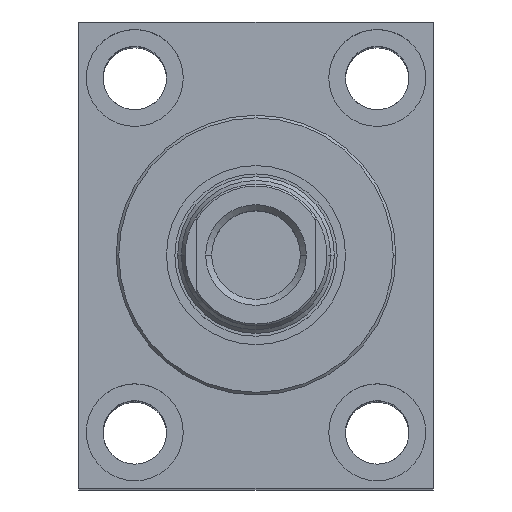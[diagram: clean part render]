
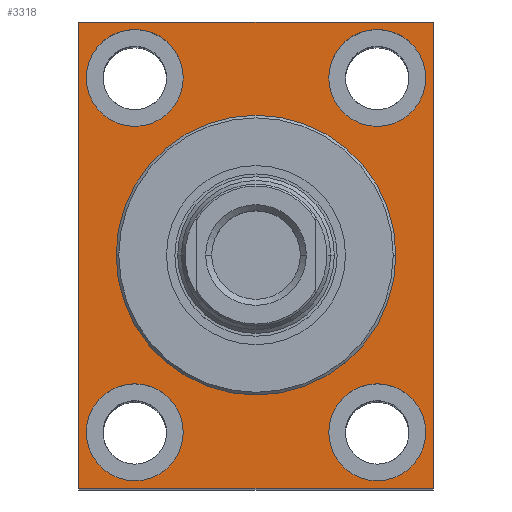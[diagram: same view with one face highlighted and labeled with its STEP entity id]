
A CAD part, top view. The second image highlights one B-rep face of the part: STEP entity #3318.
In plain terms, the highlighted planar face has unit normal (0, 0, 1).
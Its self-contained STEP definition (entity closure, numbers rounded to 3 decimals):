
#13 = CARTESIAN_POINT ( 'NONE',  ( -32.5, 47.5, -14. ) ) ;
#71 = VERTEX_POINT ( 'NONE', #3009 ) ;
#130 = VERTEX_POINT ( 'NONE', #8001 ) ;
#139 = EDGE_CURVE ( 'NONE', #71, #6785, #6613, .T. ) ;
#250 = EDGE_LOOP ( 'NONE', ( #7185, #1024 ) ) ;
#334 = CARTESIAN_POINT ( 'NONE',  ( -45.5, 47.5, -14. ) ) ;
#358 = CARTESIAN_POINT ( 'NONE',  ( 32.5, -47.5, -14. ) ) ;
#385 = CARTESIAN_POINT ( 'NONE',  ( 45.5, 47.5, -14. ) ) ;
#531 = FACE_OUTER_BOUND ( 'NONE', #6491, .T. ) ;
#555 = DIRECTION ( 'NONE',  ( 0., -1., 0. ) ) ;
#579 = DIRECTION ( 'NONE',  ( 0., 0., -1. ) ) ;
#604 = VERTEX_POINT ( 'NONE', #7264 ) ;
#636 = CARTESIAN_POINT ( 'NONE',  ( 0., 37.501, -14. ) ) ;
#644 = CARTESIAN_POINT ( 'NONE',  ( -47.5, -62.5, -14. ) ) ;
#667 = ORIENTED_EDGE ( 'NONE', *, *, #4178, .T. ) ;
#738 = VERTEX_POINT ( 'NONE', #334 ) ;
#773 = CIRCLE ( 'NONE', #7615, 37.501 ) ;
#813 = DIRECTION ( 'NONE',  ( 0., 0., -1. ) ) ;
#873 = EDGE_LOOP ( 'NONE', ( #5511, #7522 ) ) ;
#1019 = DIRECTION ( 'NONE',  ( 0., 0., 1. ) ) ;
#1024 = ORIENTED_EDGE ( 'NONE', *, *, #6876, .T. ) ;
#1105 = EDGE_CURVE ( 'NONE', #130, #4103, #1319, .T. ) ;
#1123 = CARTESIAN_POINT ( 'NONE',  ( -47.5, 62.5, -14. ) ) ;
#1130 = DIRECTION ( 'NONE',  ( 0., 0., -1. ) ) ;
#1153 = VECTOR ( 'NONE', #5759, 1000. ) ;
#1194 = EDGE_CURVE ( 'NONE', #4536, #4074, #7053, .T. ) ;
#1231 = CARTESIAN_POINT ( 'NONE',  ( 0., 0., -14. ) ) ;
#1236 = CARTESIAN_POINT ( 'NONE',  ( -47.5, -62.5, -14. ) ) ;
#1319 = LINE ( 'NONE', #2573, #6124 ) ;
#1323 = CARTESIAN_POINT ( 'NONE',  ( 32.5, 47.5, -14. ) ) ;
#1352 = DIRECTION ( 'NONE',  ( -1., 0., 0. ) ) ;
#1382 = EDGE_CURVE ( 'NONE', #7646, #6312, #7972, .T. ) ;
#1402 = VERTEX_POINT ( 'NONE', #2418 ) ;
#1547 = ORIENTED_EDGE ( 'NONE', *, *, #2596, .T. ) ;
#1548 = EDGE_CURVE ( 'NONE', #4074, #4536, #3214, .T. ) ;
#1555 = CARTESIAN_POINT ( 'NONE',  ( 0., -37.501, -14. ) ) ;
#1815 = DIRECTION ( 'NONE',  ( 0., 1., 0. ) ) ;
#1820 = CARTESIAN_POINT ( 'NONE',  ( -32.5, -47.5, -14. ) ) ;
#1836 = ORIENTED_EDGE ( 'NONE', *, *, #1548, .T. ) ;
#1877 = AXIS2_PLACEMENT_3D ( 'NONE', #358, #1130, #4218 ) ;
#1939 = CARTESIAN_POINT ( 'NONE',  ( -45.5, -47.5, -14. ) ) ;
#2064 = CIRCLE ( 'NONE', #6390, 13. ) ;
#2082 = AXIS2_PLACEMENT_3D ( 'NONE', #5171, #6492, #2822 ) ;
#2330 = FACE_BOUND ( 'NONE', #250, .T. ) ;
#2378 = DIRECTION ( 'NONE',  ( 0., 0., -1. ) ) ;
#2382 = DIRECTION ( 'NONE',  ( -1., 0., 0. ) ) ;
#2408 = DIRECTION ( 'NONE',  ( 1., 0., 0. ) ) ;
#2418 = CARTESIAN_POINT ( 'NONE',  ( 19.5, -47.5, -14. ) ) ;
#2573 = CARTESIAN_POINT ( 'NONE',  ( 47.5, 62.5, -14. ) ) ;
#2596 = EDGE_CURVE ( 'NONE', #8097, #738, #2064, .T. ) ;
#2615 = EDGE_CURVE ( 'NONE', #6785, #71, #3775, .T. ) ;
#2820 = AXIS2_PLACEMENT_3D ( 'NONE', #1323, #579, #3163 ) ;
#2822 = DIRECTION ( 'NONE',  ( -1., 0., 0. ) ) ;
#2995 = FACE_BOUND ( 'NONE', #4269, .T. ) ;
#3009 = CARTESIAN_POINT ( 'NONE',  ( -19.5, -47.5, -14. ) ) ;
#3014 = EDGE_CURVE ( 'NONE', #5154, #604, #4407, .T. ) ;
#3123 = ORIENTED_EDGE ( 'NONE', *, *, #3014, .T. ) ;
#3130 = DIRECTION ( 'NONE',  ( 0., 1., 0. ) ) ;
#3161 = DIRECTION ( 'NONE',  ( 0., 1., 0. ) ) ;
#3163 = DIRECTION ( 'NONE',  ( -1., 0., 0. ) ) ;
#3207 = DIRECTION ( 'NONE',  ( 0., 0., -1. ) ) ;
#3210 = DIRECTION ( 'NONE',  ( -1., 0., 0. ) ) ;
#3214 = CIRCLE ( 'NONE', #2820, 13. ) ;
#3283 = VERTEX_POINT ( 'NONE', #8021 ) ;
#3318 = ADVANCED_FACE ( 'NONE', ( #4271, #2995, #7324, #2330, #6778, #531 ), #5546, .T. ) ;
#3394 = CIRCLE ( 'NONE', #7218, 13. ) ;
#3434 = ORIENTED_EDGE ( 'NONE', *, *, #139, .T. ) ;
#3742 = DIRECTION ( 'NONE',  ( 0., 0., -1. ) ) ;
#3753 = CARTESIAN_POINT ( 'NONE',  ( 32.5, -47.5, -14. ) ) ;
#3754 = EDGE_CURVE ( 'NONE', #1402, #3283, #4906, .T. ) ;
#3775 = CIRCLE ( 'NONE', #5083, 13. ) ;
#3833 = ORIENTED_EDGE ( 'NONE', *, *, #7337, .T. ) ;
#4074 = VERTEX_POINT ( 'NONE', #385 ) ;
#4103 = VERTEX_POINT ( 'NONE', #4990 ) ;
#4161 = CARTESIAN_POINT ( 'NONE',  ( 0., 0., -14. ) ) ;
#4178 = EDGE_CURVE ( 'NONE', #604, #130, #4284, .T. ) ;
#4207 = ORIENTED_EDGE ( 'NONE', *, *, #1105, .T. ) ;
#4218 = DIRECTION ( 'NONE',  ( -1., 0., 0. ) ) ;
#4269 = EDGE_LOOP ( 'NONE', ( #3833, #1547 ) ) ;
#4271 = FACE_BOUND ( 'NONE', #873, .T. ) ;
#4284 = LINE ( 'NONE', #8070, #4492 ) ;
#4325 = EDGE_LOOP ( 'NONE', ( #5599, #3434 ) ) ;
#4407 = LINE ( 'NONE', #1236, #1153 ) ;
#4492 = VECTOR ( 'NONE', #3130, 1000. ) ;
#4534 = DIRECTION ( 'NONE',  ( 0., 0., -1. ) ) ;
#4536 = VERTEX_POINT ( 'NONE', #6699 ) ;
#4906 = CIRCLE ( 'NONE', #1877, 13. ) ;
#4944 = DIRECTION ( 'NONE',  ( 0., 0., -1. ) ) ;
#4990 = CARTESIAN_POINT ( 'NONE',  ( -47.5, 62.5, -14. ) ) ;
#4998 = EDGE_LOOP ( 'NONE', ( #5630, #1836 ) ) ;
#5075 = AXIS2_PLACEMENT_3D ( 'NONE', #4161, #2378, #1815 ) ;
#5083 = AXIS2_PLACEMENT_3D ( 'NONE', #5728, #6464, #3210 ) ;
#5154 = VERTEX_POINT ( 'NONE', #644 ) ;
#5162 = AXIS2_PLACEMENT_3D ( 'NONE', #1820, #4944, #2382 ) ;
#5171 = CARTESIAN_POINT ( 'NONE',  ( -32.5, 47.5, -14. ) ) ;
#5208 = CARTESIAN_POINT ( 'NONE',  ( 32.5, 47.5, -14. ) ) ;
#5511 = ORIENTED_EDGE ( 'NONE', *, *, #7191, .T. ) ;
#5536 = ORIENTED_EDGE ( 'NONE', *, *, #8081, .T. ) ;
#5546 = PLANE ( 'NONE',  #7666 ) ;
#5599 = ORIENTED_EDGE ( 'NONE', *, *, #2615, .T. ) ;
#5630 = ORIENTED_EDGE ( 'NONE', *, *, #1194, .T. ) ;
#5728 = CARTESIAN_POINT ( 'NONE',  ( -32.5, -47.5, -14. ) ) ;
#5759 = DIRECTION ( 'NONE',  ( 1., 0., 0. ) ) ;
#5831 = DIRECTION ( 'NONE',  ( -1., 0., 0. ) ) ;
#6124 = VECTOR ( 'NONE', #1352, 1000. ) ;
#6182 = LINE ( 'NONE', #1123, #6763 ) ;
#6312 = VERTEX_POINT ( 'NONE', #636 ) ;
#6383 = AXIS2_PLACEMENT_3D ( 'NONE', #5208, #813, #5831 ) ;
#6390 = AXIS2_PLACEMENT_3D ( 'NONE', #13, #4534, #6924 ) ;
#6464 = DIRECTION ( 'NONE',  ( 0., 0., -1. ) ) ;
#6491 = EDGE_LOOP ( 'NONE', ( #5536, #3123, #667, #4207 ) ) ;
#6492 = DIRECTION ( 'NONE',  ( 0., 0., -1. ) ) ;
#6613 = CIRCLE ( 'NONE', #5162, 13. ) ;
#6699 = CARTESIAN_POINT ( 'NONE',  ( 19.5, 47.5, -14. ) ) ;
#6763 = VECTOR ( 'NONE', #555, 1000. ) ;
#6778 = FACE_BOUND ( 'NONE', #4325, .T. ) ;
#6785 = VERTEX_POINT ( 'NONE', #1939 ) ;
#6876 = EDGE_CURVE ( 'NONE', #3283, #1402, #3394, .T. ) ;
#6878 = DIRECTION ( 'NONE',  ( -1., 0., 0. ) ) ;
#6924 = DIRECTION ( 'NONE',  ( -1., 0., 0. ) ) ;
#7053 = CIRCLE ( 'NONE', #6383, 13. ) ;
#7185 = ORIENTED_EDGE ( 'NONE', *, *, #3754, .T. ) ;
#7191 = EDGE_CURVE ( 'NONE', #6312, #7646, #773, .T. ) ;
#7218 = AXIS2_PLACEMENT_3D ( 'NONE', #3753, #3207, #6878 ) ;
#7264 = CARTESIAN_POINT ( 'NONE',  ( 47.5, -62.5, -14. ) ) ;
#7324 = FACE_BOUND ( 'NONE', #4998, .T. ) ;
#7337 = EDGE_CURVE ( 'NONE', #738, #8097, #7748, .T. ) ;
#7522 = ORIENTED_EDGE ( 'NONE', *, *, #1382, .T. ) ;
#7615 = AXIS2_PLACEMENT_3D ( 'NONE', #1231, #3742, #3161 ) ;
#7646 = VERTEX_POINT ( 'NONE', #1555 ) ;
#7666 = AXIS2_PLACEMENT_3D ( 'NONE', #8061, #1019, #2408 ) ;
#7748 = CIRCLE ( 'NONE', #2082, 13. ) ;
#7750 = CARTESIAN_POINT ( 'NONE',  ( -19.5, 47.5, -14. ) ) ;
#7972 = CIRCLE ( 'NONE', #5075, 37.501 ) ;
#8001 = CARTESIAN_POINT ( 'NONE',  ( 47.5, 62.5, -14. ) ) ;
#8021 = CARTESIAN_POINT ( 'NONE',  ( 45.5, -47.5, -14. ) ) ;
#8061 = CARTESIAN_POINT ( 'NONE',  ( 0., 0., -14. ) ) ;
#8070 = CARTESIAN_POINT ( 'NONE',  ( 47.5, -62.5, -14. ) ) ;
#8081 = EDGE_CURVE ( 'NONE', #4103, #5154, #6182, .T. ) ;
#8097 = VERTEX_POINT ( 'NONE', #7750 ) ;
